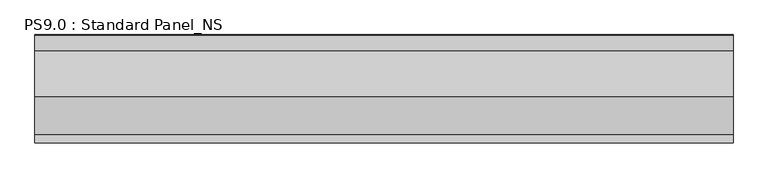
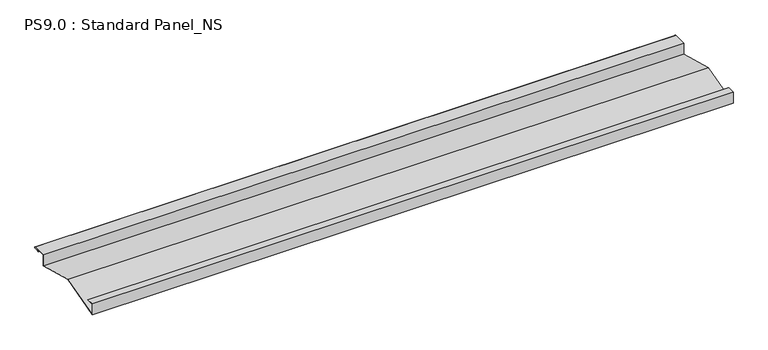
"""IFC4 building model written with IfcOpenShell, lengths in millimetres: proxy geometry, PS9.0 : Standard Panel_NS."""

import ifcopenshell
import ifcopenshell.guid

model = None  # the IFC model being written
_history = None  # IfcOwnerHistory: only IFC2X3 demands one
_inside = {}  # id of a spatial element -> (the spatial element, [elements in it])
_under = {}  # id of a project, library or spatial element -> (it, [spatial elements below it])
_declared = {}  # id of a project -> (the project, [libraries it declares])
_typed = {}  # id of a type object -> (the type object, [elements of that type])
_made_of = {}  # id of a material, layer set ... -> (it, [elements and type objects made of it])


def new_model(schema):
    """Start an empty IFC model of exactly this schema.

    Asked for "IFC4X3", IfcOpenShell would pick the latest addendum, in which some entities
    have other attributes; the version numbers below select the first issue.
    IFC2X3 requires an IfcOwnerHistory on every rooted entity: one is made here for all.
    """
    global model, _history
    if schema == "IFC4X3":
        model = ifcopenshell.file(schema_version=(4, 3, 0, 0))
    else:
        model = ifcopenshell.file(schema=schema)
    _inside.clear()
    _under.clear()
    _declared.clear()
    _typed.clear()
    _made_of.clear()
    _history = None
    if model.schema == "IFC2X3":
        org = make("IfcOrganization", Name="unknown")
        user = make(
            "IfcPersonAndOrganization",
            ThePerson=make("IfcPerson", FamilyName="unknown"),
            TheOrganization=org,
        )
        app = make(
            "IfcApplication",
            ApplicationDeveloper=org,
            Version="unknown",
            ApplicationFullName="unknown",
            ApplicationIdentifier="unknown",
        )
        _history = make(
            "IfcOwnerHistory",
            OwningUser=user,
            OwningApplication=app,
            ChangeAction="ADDED",
            CreationDate=0,
        )
    return model


def make(cls, **values):
    """One entity of the class cls with the attributes given. An attribute that is None is left unset."""
    return model.create_entity(
        cls, **{name: value for name, value in values.items() if value is not None}
    )


def rooted(cls, **values):
    """An entity with a GlobalId (a new one), such as an element, a storey or a relation."""
    return make(cls, GlobalId=ifcopenshell.guid.new(), OwnerHistory=_history, **values)


def si_unit(unit_type, name, prefix=None):
    """IfcSIUnit, for example si_unit("LENGTHUNIT", "METRE", prefix="MILLI")."""
    return make("IfcSIUnit", UnitType=unit_type, Prefix=prefix, Name=name)


def assignment(units):
    """IfcUnitAssignment: the units of a project."""
    return None if units is None else make("IfcUnitAssignment", Units=units)


def point(xyz):
    """IfcCartesianPoint."""
    return None if xyz is None else make("IfcCartesianPoint", Coordinates=xyz)


def direction(xyz):
    """IfcDirection."""
    return None if xyz is None else make("IfcDirection", DirectionRatios=xyz)


def frame(location, z_axis=None, x_axis=None):
    """IfcAxis2Placement3D, a coordinate frame: its origin and axes. An axis left out is left unset."""
    return make(
        "IfcAxis2Placement3D",
        Location=point(location),
        Axis=direction(z_axis),
        RefDirection=direction(x_axis),
    )


def frame_2d(location, x_axis=None):
    """IfcAxis2Placement2D, a coordinate frame in the plane: its origin and x axis."""
    return make(
        "IfcAxis2Placement2D", Location=point(location), RefDirection=direction(x_axis)
    )


def origin():
    """The frame at (0, 0, 0) with its axes left unset."""
    return frame((0.0, 0.0, 0.0))


def place(relative_to, where):
    """IfcLocalPlacement: puts the frame where relative to a parent placement (None: the world)."""
    return make(
        "IfcLocalPlacement", PlacementRelTo=relative_to, RelativePlacement=where
    )


def context(
    kind, dimensions, precision=None, world=None, true_north=None, identifier=None
):
    """IfcGeometricRepresentationContext, for example the 3D "Model" context."""
    return make(
        "IfcGeometricRepresentationContext",
        ContextIdentifier=identifier,
        ContextType=kind,
        CoordinateSpaceDimension=dimensions,
        Precision=precision,
        WorldCoordinateSystem=world,
        TrueNorth=true_north,
    )


def project(units=None, contexts=None):
    """IfcProject with its units and contexts."""
    return rooted(
        "IfcProject",
        Name="project",
        RepresentationContexts=contexts,
        UnitsInContext=assignment(units),
    )


def spatial(cls, under=None, at=None, **own):
    """A site, building, storey or space (cls), placed at a placement, below another one or the project."""
    s = rooted(cls, ObjectPlacement=at, **own)
    if under is not None:
        _under.setdefault(under.id(), (under, []))[1].append(s)
    return s


def polyline(points):
    """IfcPolyline through the points."""
    return make("IfcPolyline", Points=[point(p) for p in points])


def circle_curve(where, radius):
    """IfcCircle in the frame where."""
    return make("IfcCircle", Position=where, Radius=radius)


def trimmed(basis, trim1, trim2, sense, master):
    """IfcTrimmedCurve: the piece of a basis curve between two trims."""
    return make(
        "IfcTrimmedCurve",
        BasisCurve=basis,
        Trim1=trim1,
        Trim2=trim2,
        SenseAgreement=sense,
        MasterRepresentation=master,
    )


def segment(curve, same_sense, transition):
    """IfcCompositeCurveSegment."""
    return make(
        "IfcCompositeCurveSegment",
        Transition=transition,
        SameSense=same_sense,
        ParentCurve=curve,
    )


def composite_curve(segments, self_intersect=None):
    """IfcCompositeCurve: segments joined end to end."""
    return make("IfcCompositeCurve", Segments=segments, SelfIntersect=self_intersect)


def outline(outer, holes=None, kind="AREA"):
    """IfcArbitraryClosedProfileDef: a profile drawn as a closed curve; with holes, ...WithVoids."""
    if holes is None:
        return make("IfcArbitraryClosedProfileDef", ProfileType=kind, OuterCurve=outer)
    return make(
        "IfcArbitraryProfileDefWithVoids",
        ProfileType=kind,
        OuterCurve=outer,
        InnerCurves=holes,
    )


def extrude(swept, where, along, depth):
    """IfcExtrudedAreaSolid: the profile swept, set in the frame where, extruded along a direction by depth."""
    return make(
        "IfcExtrudedAreaSolid",
        SweptArea=swept,
        Position=where,
        ExtrudedDirection=direction(along),
        Depth=depth,
    )


def shape(context_of_items, identifier, shape_type, items):
    """IfcShapeRepresentation: the items that make up one representation, for example the "Body"."""
    return make(
        "IfcShapeRepresentation",
        ContextOfItems=context_of_items,
        RepresentationIdentifier=identifier,
        RepresentationType=shape_type,
        Items=items,
    )


def source(mapping_origin, context_of_items, identifier, shape_type, items):
    """IfcRepresentationMap: a shape defined once, which mapped items show again and again."""
    return make(
        "IfcRepresentationMap",
        MappingOrigin=mapping_origin,
        MappedRepresentation=shape(context_of_items, identifier, shape_type, items),
    )


def transform(
    local_origin,
    x_axis=None,
    y_axis=None,
    z_axis=None,
    scale=None,
    scale2=None,
    scale3=None,
    uniform=True,
):
    """IfcCartesianTransformationOperator3D, or its non-uniform kind. x_axis, y_axis, z_axis: its Axis1, 2, 3."""
    if uniform:
        return make(
            "IfcCartesianTransformationOperator3D",
            Axis1=direction(x_axis),
            Axis2=direction(y_axis),
            LocalOrigin=point(local_origin),
            Scale=scale,
            Axis3=direction(z_axis),
        )
    return make(
        "IfcCartesianTransformationOperator3DnonUniform",
        Axis1=direction(x_axis),
        Axis2=direction(y_axis),
        LocalOrigin=point(local_origin),
        Scale=scale,
        Axis3=direction(z_axis),
        Scale2=scale2,
        Scale3=scale3,
    )


def mapped(mapping_source, mapping_target):
    """IfcMappedItem: shows the shape of a source again, moved by a transform."""
    return make(
        "IfcMappedItem", MappingSource=mapping_source, MappingTarget=mapping_target
    )


def made_of(thing, what):
    """Note that an element or type object is made of a material, layer set ...; save() writes the relation."""
    if what is not None:
        _made_of.setdefault(what.id(), (what, []))[1].append(thing)
    return thing


def element(
    cls,
    number,
    at=None,
    inside=None,
    cuts=None,
    type_object=None,
    material=None,
    context=None,
    identifier="Body",
    shape_type=None,
    held_by="IfcProductDefinitionShape",
    body=None,
    shapes=None,
    **own,
):
    """One element of the class cls, such as IfcWall. Its Tag is "e" and its number.

    at: its placement. inside: the storey or other place that contains it. cuts: it is an
    opening in that element (IfcRelVoidsElement). A single representation is given by context,
    identifier, shape_type and body (its items); several are given by shapes. held_by: the class
    of the entity that holds the representations. save() writes the other relations.
    """
    e = rooted(cls, Tag="e%d" % number, ObjectPlacement=at, **own)
    if body is not None:
        shapes = [shape(context, identifier, shape_type, body)]
    if shapes is not None:
        e.Representation = make(held_by, Representations=shapes)
    if inside is not None:
        _inside.setdefault(inside.id(), (inside, []))[1].append(e)
    if cuts is not None:
        rooted(
            "IfcRelVoidsElement", RelatingBuildingElement=cuts, RelatedOpeningElement=e
        )
    if type_object is not None:
        _typed.setdefault(type_object.id(), (type_object, []))[1].append(e)
    return made_of(e, material)


def aggregate(whole, parts):
    """IfcRelAggregates: a whole, such as a stair, and the parts it consists of."""
    return rooted("IfcRelAggregates", RelatingObject=whole, RelatedObjects=parts)


def save(model, path):
    """Write the relations noted so far, then the file.

    IfcRelAggregates (storeys below a building ...), IfcRelContainedInSpatialStructure (elements
    in a storey), IfcRelDefinesByType, IfcRelAssociatesMaterial and IfcRelDeclares: one each for
    every whole, place, type object, material and project.
    """
    for whole, parts in _under.values():
        aggregate(whole, parts)
    for where, things in _inside.values():
        rooted(
            "IfcRelContainedInSpatialStructure",
            RelatedElements=things,
            RelatingStructure=where,
        )
    for kind, things in _typed.values():
        rooted("IfcRelDefinesByType", RelatedObjects=things, RelatingType=kind)
    for what, things in _made_of.values():
        rooted("IfcRelAssociatesMaterial", RelatedObjects=things, RelatingMaterial=what)
    for by, libraries in _declared.values():
        rooted("IfcRelDeclares", RelatingContext=by, RelatedDefinitions=libraries)
    model.write(path)


def ps9_0_standard_panel_ns_52e81e55(model_context):
    return source(origin(), model_context, "Body", "SweptSolid", [
        extrude(outline(composite_curve([segment(polyline([(0.0, 0.0), (25.0, 0.0), (25.0, -1.0), (1.0, -1.0), (1.0, -36.6923893), (140.0000031, 1.036183), (278.9966446, -36.6923811), (278.9966446, 1.0), (325.0510156, 1.0)]), True, "CONTINUOUS"), segment(trimmed(circle_curve(frame_2d((324.3094696, -0.9153551)), 2.0538928), [point((325.0510156, 1.0))], [point((325.1748462, -2.778041))], False, "CARTESIAN"), True, "CONTINUOUS"), segment(polyline([(325.1748462, -2.778041), (308.7874714, -5.923107), (308.5989911, -4.94103), (324.8448691, -1.8231201)]), True, "CONTINUOUS"), segment(trimmed(circle_curve(frame_2d((324.3094696, -0.9153551)), 1.0538928), [point((324.8448691, -1.8231201))], [point((324.8317866, 0.0))], True, "CARTESIAN"), True, "CONTINUOUS"), segment(polyline([(324.8317866, 0.0), (279.9966446, 0.0), (279.9966446, -38.0), (140.0, 0.0), (0.0, -38.0), (0.0, 0.0)]), True, "CONTINUOUS")], self_intersect=False)), frame((0.0, 0.0, 0.0), z_axis=(1.0, 0.0, 0.0), x_axis=(0.0, 1.0, 0.0)), (0.0, 0.0, 1.0), 2100.0),
    ])


if __name__ == "__main__":
    model = new_model("IFC4")
    model_context = context("Model", 3, world=origin())
    ifc_project = project(units=[si_unit("LENGTHUNIT", "METRE", prefix="MILLI")], contexts=[model_context])
    site = spatial("IfcSite", under=ifc_project)
    building = spatial("IfcBuilding", under=site)
    placement = place(None, origin())
    ps9_0_standard_panel_ns_shape = ps9_0_standard_panel_ns_52e81e55(model_context)
    element("IfcBuildingElementProxy", 1, Name="PS9.0 : Standard Panel_NS", ObjectType="PS9.0 : Standard Panel_NS", at=placement, inside=building, context=model_context, shape_type="MappedRepresentation", body=[
        mapped(ps9_0_standard_panel_ns_shape, transform((0.0, 0.0, 0.0), x_axis=(1.0, 0.0, 0.0), y_axis=(0.0, 1.0, 0.0), z_axis=(0.0, 0.0, 1.0))),
    ])
    save(model, "model.ifc")
